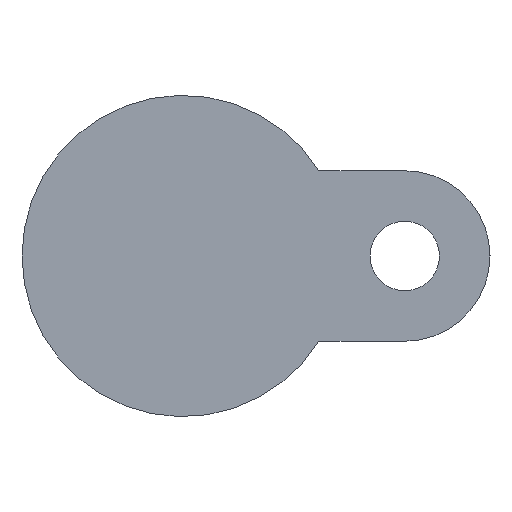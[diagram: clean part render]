
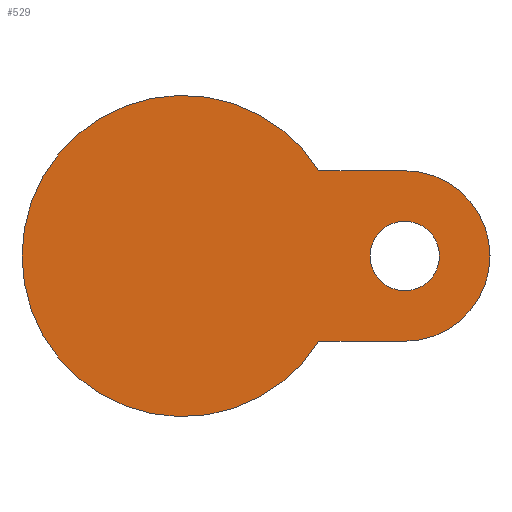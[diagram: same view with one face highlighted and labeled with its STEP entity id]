
A CAD part, front view. The second image highlights one B-rep face of the part: STEP entity #529.
In plain terms, the highlighted planar face has unit normal (0, -1, 0).
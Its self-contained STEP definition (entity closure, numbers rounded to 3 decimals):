
#39 = EDGE_CURVE ( 'NONE', #407, #507, #1445, .T. ) ;
#49 = LINE ( 'NONE', #747, #574 ) ;
#73 = AXIS2_PLACEMENT_3D ( 'NONE', #709, #1142, #98 ) ;
#93 = AXIS2_PLACEMENT_3D ( 'NONE', #851, #263, #138 ) ;
#98 = DIRECTION ( 'NONE',  ( 1., 0., 0. ) ) ;
#107 = ORIENTED_EDGE ( 'NONE', *, *, #468, .T. ) ;
#138 = DIRECTION ( 'NONE',  ( -1., 0., 0. ) ) ;
#158 = EDGE_CURVE ( 'NONE', #822, #548, #168, .T. ) ;
#167 = CARTESIAN_POINT ( 'NONE',  ( 64.75, -23., 0. ) ) ;
#168 = CIRCLE ( 'NONE', #1165, 8.75 ) ;
#181 = CARTESIAN_POINT ( 'NONE',  ( 34.322, -23., 21.5 ) ) ;
#263 = DIRECTION ( 'NONE',  ( 0., 1., 0. ) ) ;
#266 = AXIS2_PLACEMENT_3D ( 'NONE', #864, #508, #970 ) ;
#277 = DIRECTION ( 'NONE',  ( 0., 1., 0. ) ) ;
#282 = ORIENTED_EDGE ( 'NONE', *, *, #695, .F. ) ;
#337 = CIRCLE ( 'NONE', #93, 8.75 ) ;
#400 = VERTEX_POINT ( 'NONE', #517 ) ;
#407 = VERTEX_POINT ( 'NONE', #181 ) ;
#468 = EDGE_CURVE ( 'NONE', #548, #822, #337, .T. ) ;
#497 = FACE_BOUND ( 'NONE', #766, .T. ) ;
#502 = PLANE ( 'NONE',  #266 ) ;
#507 = VERTEX_POINT ( 'NONE', #1199 ) ;
#508 = DIRECTION ( 'NONE',  ( 0., -1., 0. ) ) ;
#517 = CARTESIAN_POINT ( 'NONE',  ( 56., -23., -21.5 ) ) ;
#529 = ADVANCED_FACE ( 'NONE', ( #497, #722 ), #502, .T. ) ;
#537 = LINE ( 'NONE', #1218, #980 ) ;
#548 = VERTEX_POINT ( 'NONE', #167 ) ;
#574 = VECTOR ( 'NONE', #971, 1000. ) ;
#632 = VERTEX_POINT ( 'NONE', #645 ) ;
#645 = CARTESIAN_POINT ( 'NONE',  ( 56., -23., 21.5 ) ) ;
#695 = EDGE_CURVE ( 'NONE', #407, #632, #537, .T. ) ;
#709 = CARTESIAN_POINT ( 'NONE',  ( 0., -23., 0. ) ) ;
#722 = FACE_OUTER_BOUND ( 'NONE', #995, .T. ) ;
#747 = CARTESIAN_POINT ( 'NONE',  ( 30.5, -23., -21.5 ) ) ;
#766 = EDGE_LOOP ( 'NONE', ( #1439, #107 ) ) ;
#771 = CIRCLE ( 'NONE', #1134, 21.5 ) ;
#822 = VERTEX_POINT ( 'NONE', #1065 ) ;
#851 = CARTESIAN_POINT ( 'NONE',  ( 56., -23., 0. ) ) ;
#864 = CARTESIAN_POINT ( 'NONE',  ( 40.5, -23., 0. ) ) ;
#958 = CARTESIAN_POINT ( 'NONE',  ( 56., -23., 0. ) ) ;
#970 = DIRECTION ( 'NONE',  ( 1., 0., 0. ) ) ;
#971 = DIRECTION ( 'NONE',  ( -1., 0., 0. ) ) ;
#980 = VECTOR ( 'NONE', #1349, 1000. ) ;
#995 = EDGE_LOOP ( 'NONE', ( #1347, #1028, #1360, #282 ) ) ;
#1028 = ORIENTED_EDGE ( 'NONE', *, *, #1413, .F. ) ;
#1065 = CARTESIAN_POINT ( 'NONE',  ( 47.25, -23., 0. ) ) ;
#1082 = DIRECTION ( 'NONE',  ( 1., 0., 0. ) ) ;
#1134 = AXIS2_PLACEMENT_3D ( 'NONE', #1308, #277, #1082 ) ;
#1142 = DIRECTION ( 'NONE',  ( 0., -1., 0. ) ) ;
#1165 = AXIS2_PLACEMENT_3D ( 'NONE', #958, #1408, #1284 ) ;
#1199 = CARTESIAN_POINT ( 'NONE',  ( 34.322, -23., -21.5 ) ) ;
#1218 = CARTESIAN_POINT ( 'NONE',  ( 30.5, -23., 21.5 ) ) ;
#1284 = DIRECTION ( 'NONE',  ( -1., 0., 0. ) ) ;
#1308 = CARTESIAN_POINT ( 'NONE',  ( 56., -23., 0. ) ) ;
#1347 = ORIENTED_EDGE ( 'NONE', *, *, #39, .T. ) ;
#1349 = DIRECTION ( 'NONE',  ( 1., 0., 0. ) ) ;
#1360 = ORIENTED_EDGE ( 'NONE', *, *, #1364, .F. ) ;
#1364 = EDGE_CURVE ( 'NONE', #632, #400, #771, .T. ) ;
#1408 = DIRECTION ( 'NONE',  ( 0., 1., 0. ) ) ;
#1413 = EDGE_CURVE ( 'NONE', #400, #507, #49, .T. ) ;
#1439 = ORIENTED_EDGE ( 'NONE', *, *, #158, .T. ) ;
#1445 = CIRCLE ( 'NONE', #73, 40.5 ) ;
